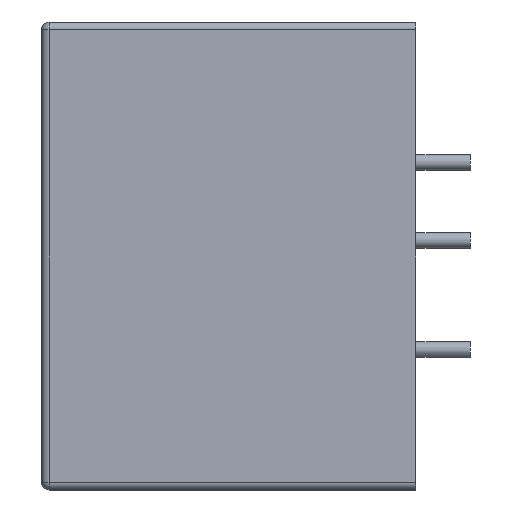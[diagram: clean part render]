
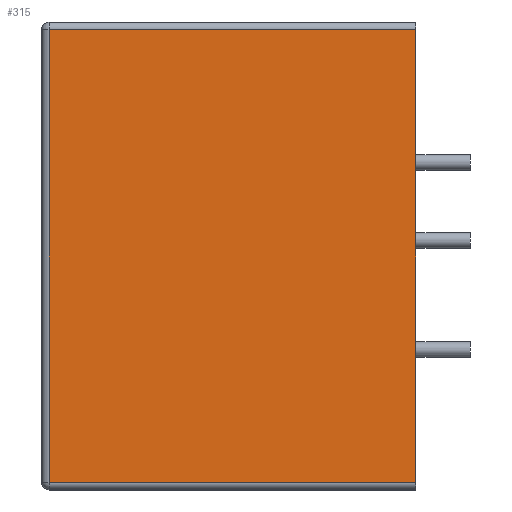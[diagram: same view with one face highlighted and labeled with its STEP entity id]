
A CAD part, left-side view. The second image highlights one B-rep face of the part: STEP entity #315.
In plain terms, the highlighted planar face has unit normal (-1, 0, 0).
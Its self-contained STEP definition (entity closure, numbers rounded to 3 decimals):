
#34 = AXIS2_PLACEMENT_3D ( 'NONE', #999, #175, #545 ) ;
#44 = VERTEX_POINT ( 'NONE', #469 ) ;
#175 = DIRECTION ( 'NONE',  ( 1., 0., 0. ) ) ;
#219 = CARTESIAN_POINT ( 'NONE',  ( -22.75, 23.5, -15. ) ) ;
#220 = LINE ( 'NONE', #320, #453 ) ;
#249 = EDGE_CURVE ( 'NONE', #940, #44, #365, .T. ) ;
#263 = CARTESIAN_POINT ( 'NONE',  ( -22.75, 0., -14.5 ) ) ;
#300 = DIRECTION ( 'NONE',  ( 0., 0., -1. ) ) ;
#304 = LINE ( 'NONE', #1007, #470 ) ;
#315 = ADVANCED_FACE ( 'NONE', ( #542 ), #704, .F. ) ;
#320 = CARTESIAN_POINT ( 'NONE',  ( -22.75, 24., -14.5 ) ) ;
#352 = CARTESIAN_POINT ( 'NONE',  ( -22.75, 23.5, 14.5 ) ) ;
#354 = ORIENTED_EDGE ( 'NONE', *, *, #249, .T. ) ;
#359 = VERTEX_POINT ( 'NONE', #867 ) ;
#365 = LINE ( 'NONE', #219, #498 ) ;
#453 = VECTOR ( 'NONE', #725, 1000. ) ;
#469 = CARTESIAN_POINT ( 'NONE',  ( -22.75, 23.5, -14.5 ) ) ;
#470 = VECTOR ( 'NONE', #478, 1000. ) ;
#478 = DIRECTION ( 'NONE',  ( 0., 0., 1. ) ) ;
#498 = VECTOR ( 'NONE', #300, 1000. ) ;
#527 = ORIENTED_EDGE ( 'NONE', *, *, #1009, .T. ) ;
#542 = FACE_OUTER_BOUND ( 'NONE', #932, .T. ) ;
#545 = DIRECTION ( 'NONE',  ( 0., 0., -1. ) ) ;
#704 = PLANE ( 'NONE',  #34 ) ;
#708 = VERTEX_POINT ( 'NONE', #263 ) ;
#725 = DIRECTION ( 'NONE',  ( 0., -1., 0. ) ) ;
#735 = DIRECTION ( 'NONE',  ( 0., 1., 0. ) ) ;
#741 = LINE ( 'NONE', #969, #967 ) ;
#767 = ORIENTED_EDGE ( 'NONE', *, *, #833, .T. ) ;
#830 = ORIENTED_EDGE ( 'NONE', *, *, #980, .T. ) ;
#833 = EDGE_CURVE ( 'NONE', #708, #359, #304, .T. ) ;
#867 = CARTESIAN_POINT ( 'NONE',  ( -22.75, 0., 14.5 ) ) ;
#932 = EDGE_LOOP ( 'NONE', ( #354, #830, #767, #527 ) ) ;
#940 = VERTEX_POINT ( 'NONE', #352 ) ;
#967 = VECTOR ( 'NONE', #735, 1000. ) ;
#969 = CARTESIAN_POINT ( 'NONE',  ( -22.75, 24., 14.5 ) ) ;
#980 = EDGE_CURVE ( 'NONE', #44, #708, #220, .T. ) ;
#999 = CARTESIAN_POINT ( 'NONE',  ( -22.75, 24., -15. ) ) ;
#1007 = CARTESIAN_POINT ( 'NONE',  ( -22.75, 0., -15. ) ) ;
#1009 = EDGE_CURVE ( 'NONE', #359, #940, #741, .T. ) ;
